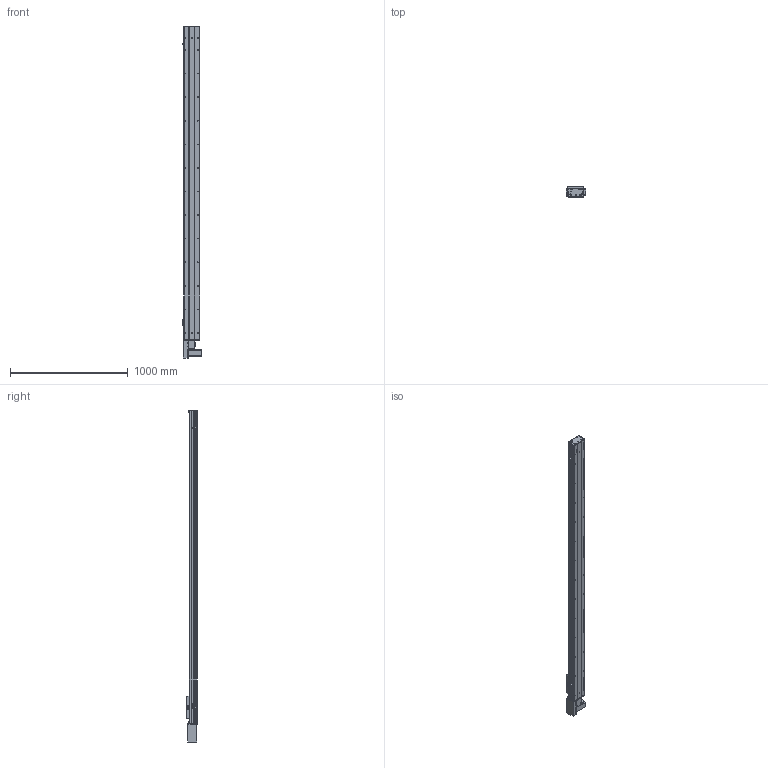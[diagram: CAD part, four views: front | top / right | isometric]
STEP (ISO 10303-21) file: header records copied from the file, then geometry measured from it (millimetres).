
FILE_DESCRIPTION (( 'STEP AP203' ), '1' );
FILE_NAME ('Y135CB-D90-S2350-BR-P400W.STEP', '2020-02-18T03:03:08', ( '微软用户' ), ( '微软中国' ), 'SwSTEP 2.0', 'SolidWorks 2017', '' );
FILE_SCHEMA (( 'CONFIG_CONTROL_DESIGN' ));
Length unit declared in the file: millimetre
Products named in the file (18): Y10B--々湍喘謫眊--666; Y135CB-耜裔; 5CB --掛极耜裔啣-; Y135CB-D90-S2350-BR-P400W; 135CB---遴掛极.-; C-詩湍揤踡え-陔; 35CB---喘謫眊楊擘啣; 135CB--詩湍-CE; Y10B-耜蚾蟀諉啣----; Y100-135俋离換覜ん--; Y俋欶BR----; Y135C-陔俋离換覜結え-; 0B-埴倛裔啣; 5C--俋欶; 0B-源倛裔啣; 0B-萇儂楊擘啣; C-雄赽釱--; san松下电机400不带刹车----
Assembly tree (21 placements, depth 2):
  Y135CB-D90-S2350-BR-P400W
    Y135CB-耜裔
    135CB---遴掛极.-
    35CB---喘謫眊楊擘啣
    Y10B-耜蚾蟀諉啣----
    Y俋欶BR----
    0B-埴倛裔啣
    0B-源倛裔啣
    0B-萇儂楊擘啣
    san松下电机400不带刹车----
    5CB --掛极耜裔啣-  x2
    C-詩湍揤踡え-陔  x2
    135CB--詩湍-CE
    Y100-135俋离換覜ん--  x3
    Y135C-陔俋离換覜結え-
    5C--俋欶
    C-雄赽釱--
    Y10B--々湍喘謫眊--666
Bounding box: 167.5 x 91 x 2814.5 mm (x, y, z)
Volume: 7893075.6 mm3; surface area: 3124756.4 mm2
Topology: 21 solids, 21 shells, 973 faces, 2653 edges, 1758 vertices
Faces by surface type: cylinder 499, plane 458, cone 16
Entity records: 30755 total; most frequent: CARTESIAN_POINT 5120, DIRECTION 5109, ORIENTED_EDGE 4782, EDGE_CURVE 2391, AXIS2_PLACEMENT_3D 1871, VERTEX_POINT 1586, VECTOR 1367, LINE 1367
